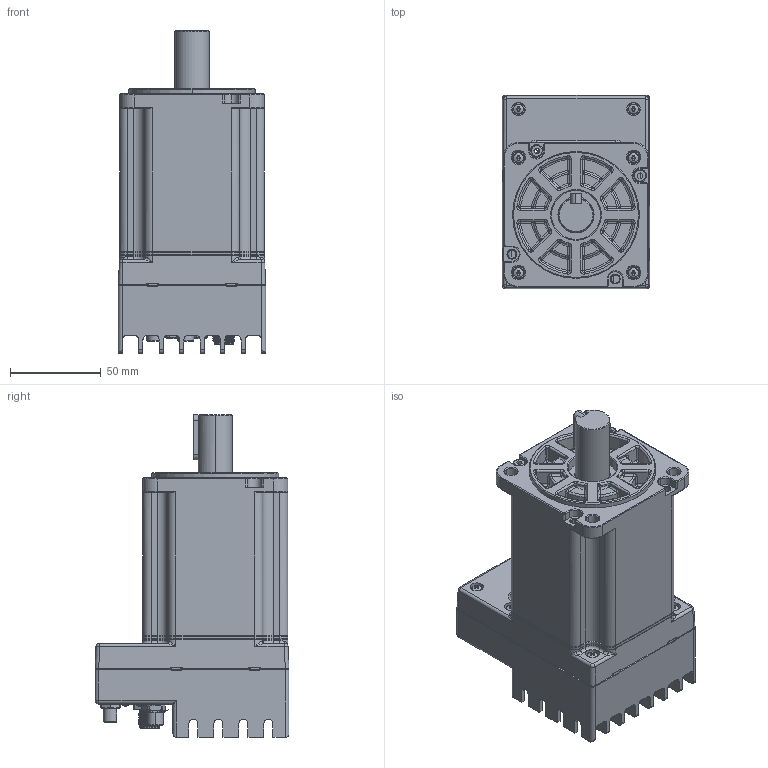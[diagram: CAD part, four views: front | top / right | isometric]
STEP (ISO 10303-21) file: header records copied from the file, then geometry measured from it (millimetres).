
FILE_DESCRIPTION (( 'STEP AP214' ), '1' );
FILE_NAME ('IM1-80SX3X5XX20B00.STEP', '2024-02-15T13:43:51', ( '' ), ( '' ), 'SwSTEP 2.0', 'SolidWorks 2020', '' );
FILE_SCHEMA (( 'AUTOMOTIVE_DESIGN' ));
Length unit declared in the file: millimetre
Products named in the file (1): IM1-80SX3X5XX20B00
Bounding box: 81.3 x 107 x 178.25 mm (x, y, z)
Surface area: 82997.9 mm2 (no closed solid volume)
Topology: 0 solids, 77 shells, 1388 faces, 5241 edges, 3863 vertices
Faces by surface type: plane 507, cylinder 505, cone 143, torus 133, bspline 52, sphere 48
Full cylindrical faces by diameter (mm): 0.5 x12, 1.5 x4, 1.6 x1, 5.6 x2, 7 x2, 7.5 x6, 9.9 x1, 10 x1, 10.7 x2, 13.5 x2, 18 x1
Entity records: 80538 total; most frequent: CARTESIAN_POINT 22477, DIRECTION 8826, ORIENTED_EDGE 8679, EDGE_CURVE 5109, VERTEX_POINT 3845, AXIS2_PLACEMENT_3D 3345, LINE 2136, VECTOR 2136
